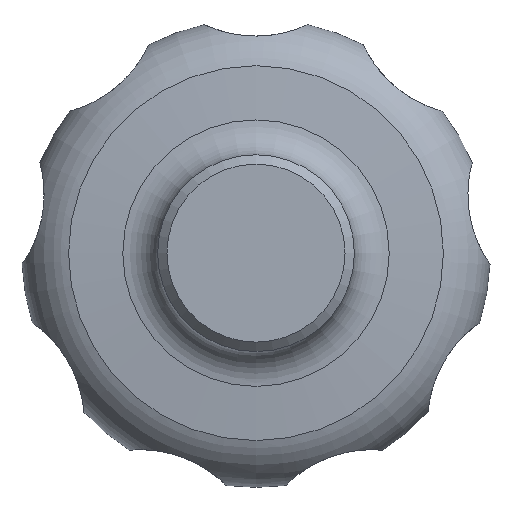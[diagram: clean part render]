
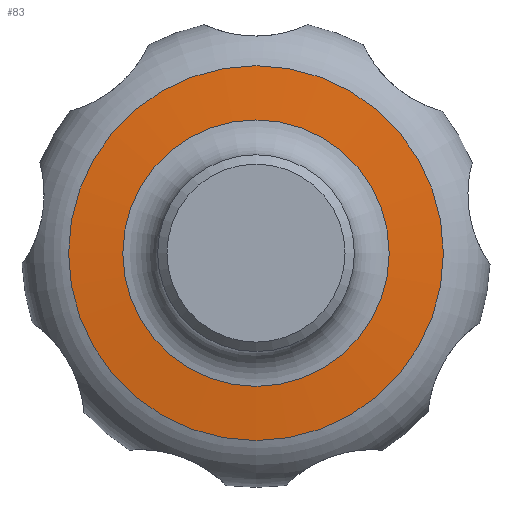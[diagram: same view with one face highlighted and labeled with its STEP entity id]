
A CAD part, front view. The second image highlights one B-rep face of the part: STEP entity #83.
In plain terms, the highlighted spherical face has radius 200.5 mm.
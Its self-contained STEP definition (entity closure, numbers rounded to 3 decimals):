
#83 = ADVANCED_FACE( '', ( #111, #112 ), #113, .T. );
#111 = FACE_OUTER_BOUND( '', #159, .T. );
#112 = FACE_OUTER_BOUND( '', #160, .T. );
#113 = SPHERICAL_SURFACE( '', #161, 200.5 );
#159 = EDGE_LOOP( '', ( #223 ) );
#160 = EDGE_LOOP( '', ( #224 ) );
#161 = AXIS2_PLACEMENT_3D( '', #225, #226, #227 );
#223 = ORIENTED_EDGE( '', *, *, #276, .T. );
#224 = ORIENTED_EDGE( '', *, *, #275, .F. );
#225 = CARTESIAN_POINT( '', ( 0., 217.5, 0. ) );
#226 = DIRECTION( '', ( 0., -1., 0. ) );
#227 = DIRECTION( '', ( 1., 0., 0. ) );
#275 = EDGE_CURVE( '', #299, #299, #300, .T. );
#276 = EDGE_CURVE( '', #301, #301, #302, .T. );
#299 = VERTEX_POINT( '', #647 );
#300 = CIRCLE( '', #648, 14.216 );
#301 = VERTEX_POINT( '', #649 );
#302 = CIRCLE( '', #650, 20. );
#647 = CARTESIAN_POINT( '', ( 0., 17.505, -14.216 ) );
#648 = AXIS2_PLACEMENT_3D( '', #1089, #1090, #1091 );
#649 = CARTESIAN_POINT( '', ( 0., 18., -20. ) );
#650 = AXIS2_PLACEMENT_3D( '', #1092, #1093, #1094 );
#1089 = CARTESIAN_POINT( '', ( 0., 17.505, 0. ) );
#1090 = DIRECTION( '', ( 0., -1., 0. ) );
#1091 = DIRECTION( '', ( 0., 0., -1. ) );
#1092 = CARTESIAN_POINT( '', ( 0., 18., 0. ) );
#1093 = DIRECTION( '', ( 0., -1., 0. ) );
#1094 = DIRECTION( '', ( 0., 0., -1. ) );
